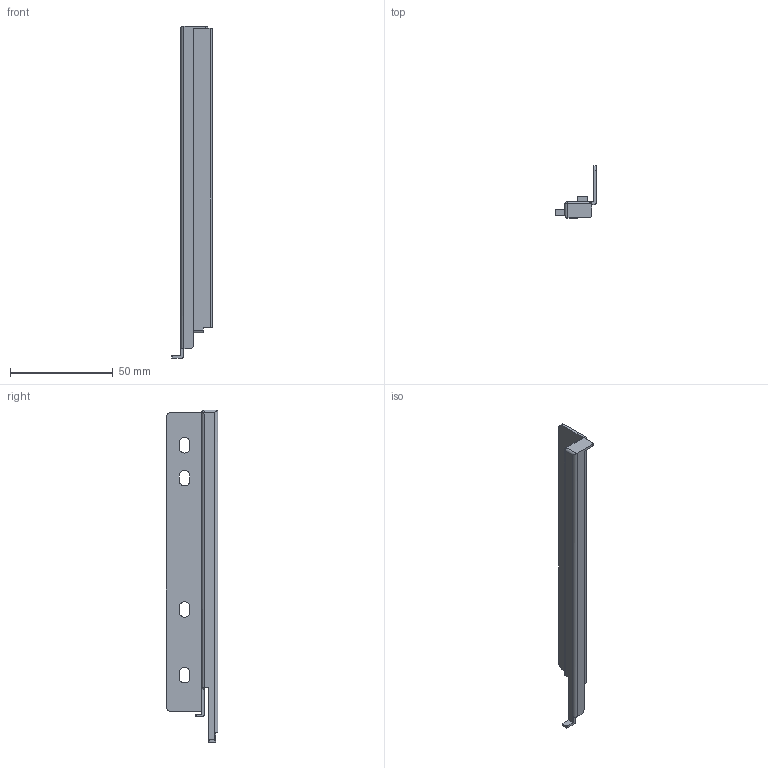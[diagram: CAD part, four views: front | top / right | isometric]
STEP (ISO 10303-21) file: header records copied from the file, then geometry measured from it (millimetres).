
FILE_DESCRIPTION (( 'STEP AP203' ), '1' );
FILE_NAME ('HT13031-R.STEP', '2021-03-16T01:57:11', ( 'Users' ), ( 'Microsoft' ), 'SwSTEP 2.0', 'SolidWorks 2018', '' );
FILE_SCHEMA (( 'CONFIG_CONTROL_DESIGN' ));
Length unit declared in the file: millimetre
Products named in the file (1): HT13031-R
Bounding box: 19.8 x 25.3 x 161.7 mm (x, y, z)
Volume: 7630.7 mm3; surface area: 13356.9 mm2
Topology: 1 solids, 1 shells, 65 faces, 184 edges, 120 vertices
Faces by surface type: plane 35, cylinder 29, bspline 1
Entity records: 2252 total; most frequent: CARTESIAN_POINT 446, ORIENTED_EDGE 366, DIRECTION 359, EDGE_CURVE 183, LINE 125, VECTOR 125, VERTEX_POINT 120, AXIS2_PLACEMENT_3D 117
